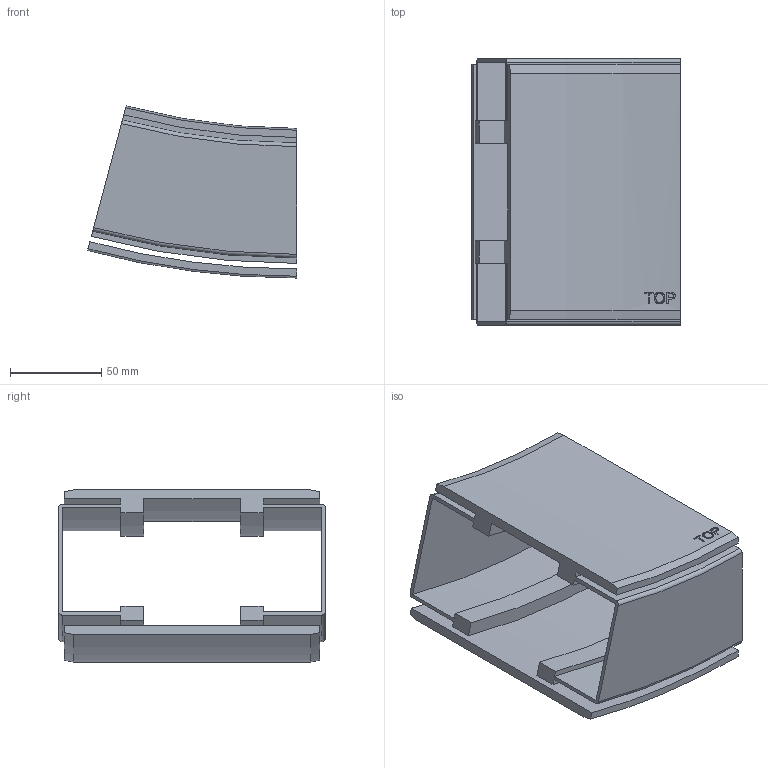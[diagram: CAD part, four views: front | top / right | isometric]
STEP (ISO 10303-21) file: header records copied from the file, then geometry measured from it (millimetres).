
FILE_DESCRIPTION(/* description */ ('VERTIKALKURVA S540 R400'),/* implementation_level */ '2;1');
FILE_NAME(/* name */ '540-5645+140-2000-UPP-01.stp',/* time_stamp */ '2022-09-21T10:30:36+02:00',/* author */ ('Mathias.Dore'),/* organization */ ('CARRYLINE'),/* preprocessor_version */ 'ST-DEVELOPER v19.2',/* originating_system */ 'Autodesk Inventor 2023',/* authorisation */ '');
FILE_SCHEMA (('AUTOMOTIVE_DESIGN { 1 0 10303 214 3 1 1 }'));
Length unit declared in the file: millimetre
Products named in the file (1): 540-5645+140-2000-UPP-01
Bounding box: 114.53 x 146 x 94.28 mm (x, y, z)
Volume: 240829.1 mm3; surface area: 129574 mm2
Topology: 2 solids, 2 shells, 87 faces, 234 edges, 156 vertices
Faces by surface type: plane 40, cylinder 25, bspline 14, cone 4, torus 4
Entity records: 7357 total; most frequent: CARTESIAN_POINT 5158, ORIENTED_EDGE 468, DIRECTION 408, EDGE_CURVE 234, VERTEX_POINT 156, AXIS2_PLACEMENT_3D 141, LINE 126, VECTOR 126
